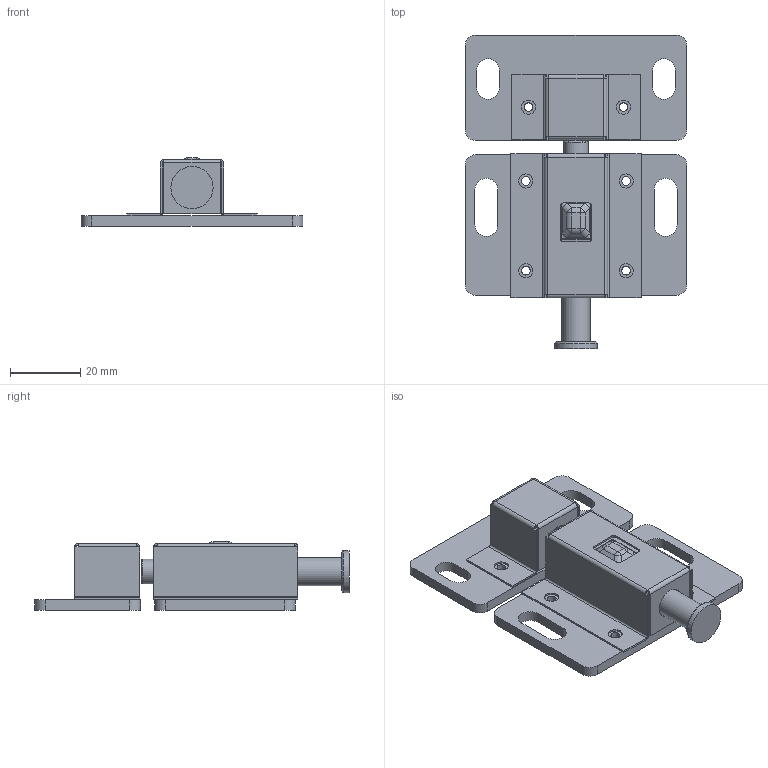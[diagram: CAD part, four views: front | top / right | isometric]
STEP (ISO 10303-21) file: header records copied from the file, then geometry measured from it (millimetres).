
FILE_DESCRIPTION(/* description */ (''),/* implementation_level */ '2;1');
FILE_NAME(/* name */ 'C:\Users\Owner\Documents\硯聰\Inv材料庫-3D新型錄-2019整理\08.型錄外-\X2\5E387528914D4EF6\X0\\自動門栓組合.stp',/* time_stamp */ '2019-03-29T10:54:50+08:00',/* author */ ('Owner'),/* organization */ (''),/* preprocessor_version */ 'ST-DEVELOPER v16.1',/* originating_system */ 'Autodesk Inventor 2016',/* authorisation */ '');
FILE_SCHEMA (('AUTOMOTIVE_DESIGN { 1 0 10303 214 3 1 1 }'));
Length unit declared in the file: millimetre
Products named in the file (11): 自動門栓板金-A; 自動門栓板金-B; 自動門栓-A; 自動門栓-B-外殼; 自動門栓-B-軸心; 自動門栓-B-C型環; 自動門栓-B-彈片; 壓縮彈簧12; 壓縮彈簧2; 自動門栓-B; 自動門栓組合
Assembly tree (10 placements, depth 4):
  自動門栓組合
    自動門栓板金-A
    自動門栓板金-B
    自動門栓-A
    自動門栓-B
      自動門栓-B-外殼
      自動門栓-B-軸心
      自動門栓-B-C型環
      自動門栓-B-彈片
      壓縮彈簧2
        壓縮彈簧12
Bounding box: 63 x 89.25 x 19.5 mm (x, y, z)
Volume: 17363.3 mm3; surface area: 22476.8 mm2
Topology: 8 solids, 8 shells, 307 faces, 717 edges, 426 vertices
Faces by surface type: plane 158, cylinder 120, bspline 19, sphere 8, torus 2
Full cylindrical faces by diameter (mm): 2.459 x6, 4 x6, 5 x2, 7 x1, 7.5 x1, 8 x3, 8.5 x1, 9 x2, 10 x1, 12 x1
Entity records: 10373 total; most frequent: CARTESIAN_POINT 3156, DIRECTION 1544, ORIENTED_EDGE 1354, EDGE_CURVE 677, AXIS2_PLACEMENT_3D 573, VERTEX_POINT 420, LINE 398, VECTOR 398
